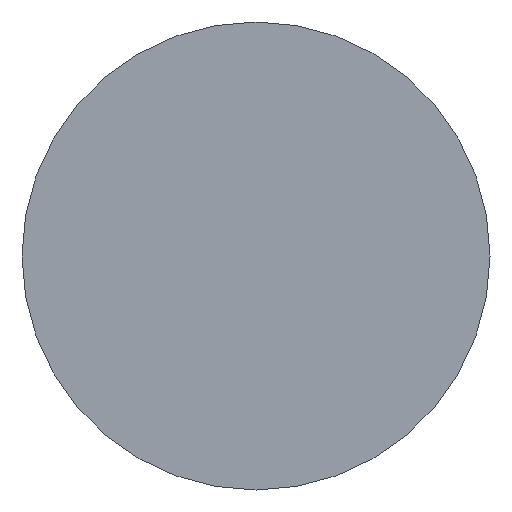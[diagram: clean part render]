
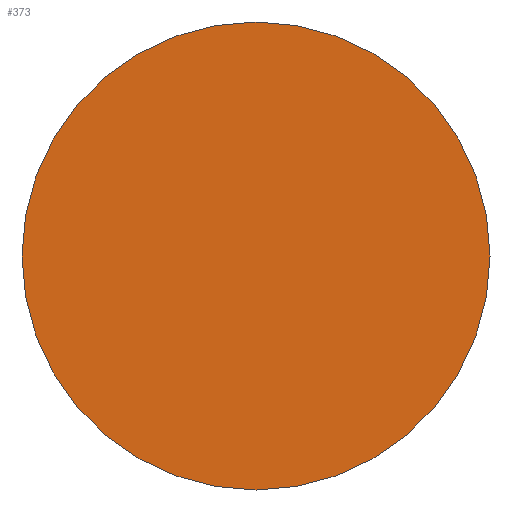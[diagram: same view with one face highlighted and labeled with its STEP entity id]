
A CAD part, front view. The second image highlights one B-rep face of the part: STEP entity #373.
In plain terms, the highlighted planar face has unit normal (0, -1, 0).
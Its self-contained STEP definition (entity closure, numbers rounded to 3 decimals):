
#65 = CARTESIAN_POINT ( 'NONE',  ( 0., 17., 0. ) ) ;
#70 = DIRECTION ( 'NONE',  ( 0., 0., -1. ) ) ;
#169 = DIRECTION ( 'NONE',  ( 0., 0., -1. ) ) ;
#184 = PLANE ( 'NONE',  #1185 ) ;
#189 = FACE_OUTER_BOUND ( 'NONE', #1458, .T. ) ;
#203 = EDGE_CURVE ( 'NONE', #979, #1512, #628, .T. ) ;
#373 = ADVANCED_FACE ( 'NONE', ( #189 ), #184, .T. ) ;
#427 = CARTESIAN_POINT ( 'NONE',  ( 0., 17., -24.25 ) ) ;
#471 = ORIENTED_EDGE ( 'NONE', *, *, #1622, .T. ) ;
#555 = DIRECTION ( 'NONE',  ( 0., -1., 0. ) ) ;
#628 = CIRCLE ( 'NONE', #1196, 24.25 ) ;
#671 = CARTESIAN_POINT ( 'NONE',  ( 0., 17., -24.25 ) ) ;
#678 = DIRECTION ( 'NONE',  ( 0., -1., 0. ) ) ;
#979 = VERTEX_POINT ( 'NONE', #1417 ) ;
#1176 = CARTESIAN_POINT ( 'NONE',  ( 0., 17., 0. ) ) ;
#1185 = AXIS2_PLACEMENT_3D ( 'NONE', #427, #555, #169 ) ;
#1191 = DIRECTION ( 'NONE',  ( 0., 0., -1. ) ) ;
#1196 = AXIS2_PLACEMENT_3D ( 'NONE', #1176, #678, #1191 ) ;
#1325 = DIRECTION ( 'NONE',  ( 0., -1., 0. ) ) ;
#1417 = CARTESIAN_POINT ( 'NONE',  ( 0., 17., 24.25 ) ) ;
#1458 = EDGE_LOOP ( 'NONE', ( #471, #1482 ) ) ;
#1482 = ORIENTED_EDGE ( 'NONE', *, *, #203, .T. ) ;
#1512 = VERTEX_POINT ( 'NONE', #671 ) ;
#1530 = CIRCLE ( 'NONE', #1606, 24.25 ) ;
#1606 = AXIS2_PLACEMENT_3D ( 'NONE', #65, #1325, #70 ) ;
#1622 = EDGE_CURVE ( 'NONE', #1512, #979, #1530, .T. ) ;
